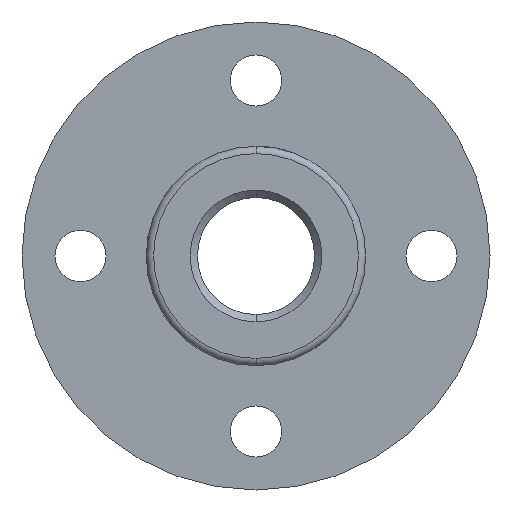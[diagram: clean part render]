
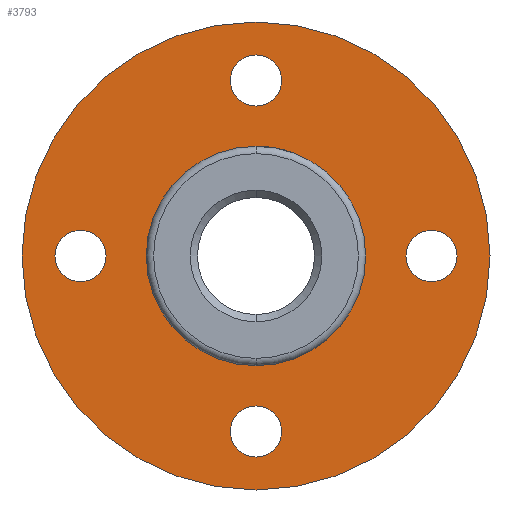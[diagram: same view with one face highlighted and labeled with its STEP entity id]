
A CAD part, front view. The second image highlights one B-rep face of the part: STEP entity #3793.
In plain terms, the highlighted planar face has unit normal (0, -1, 0).
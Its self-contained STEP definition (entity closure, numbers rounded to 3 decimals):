
#20 = EDGE_CURVE ( 'NONE', #1327, #4107, #1454, .T. ) ;
#57 = EDGE_CURVE ( 'NONE', #2911, #6385, #3033, .T. ) ;
#66 = AXIS2_PLACEMENT_3D ( 'NONE', #966, #5449, #1504 ) ;
#118 = CIRCLE ( 'NONE', #910, 1.75 ) ;
#182 = DIRECTION ( 'NONE',  ( 0., 0., 1. ) ) ;
#209 = CIRCLE ( 'NONE', #7169, 1.75 ) ;
#226 = DIRECTION ( 'NONE',  ( 0., 0., 1. ) ) ;
#517 = DIRECTION ( 'NONE',  ( 0., 0., 1. ) ) ;
#610 = ORIENTED_EDGE ( 'NONE', *, *, #6269, .T. ) ;
#662 = FACE_BOUND ( 'NONE', #2964, .T. ) ;
#719 = CARTESIAN_POINT ( 'NONE',  ( 12., 0., -1.75 ) ) ;
#831 = FACE_BOUND ( 'NONE', #5237, .T. ) ;
#887 = VERTEX_POINT ( 'NONE', #6067 ) ;
#910 = AXIS2_PLACEMENT_3D ( 'NONE', #2399, #4033, #2981 ) ;
#929 = CARTESIAN_POINT ( 'NONE',  ( -12., 0., -1.75 ) ) ;
#966 = CARTESIAN_POINT ( 'NONE',  ( 0., 0., -12. ) ) ;
#1009 = DIRECTION ( 'NONE',  ( 0., 1., 0. ) ) ;
#1040 = ORIENTED_EDGE ( 'NONE', *, *, #7217, .T. ) ;
#1255 = ORIENTED_EDGE ( 'NONE', *, *, #4280, .T. ) ;
#1262 = CIRCLE ( 'NONE', #5280, 1.75 ) ;
#1271 = CIRCLE ( 'NONE', #66, 1.75 ) ;
#1299 = VERTEX_POINT ( 'NONE', #3869 ) ;
#1327 = VERTEX_POINT ( 'NONE', #2142 ) ;
#1414 = CARTESIAN_POINT ( 'NONE',  ( 0., 0., 16. ) ) ;
#1417 = AXIS2_PLACEMENT_3D ( 'NONE', #2101, #1009, #6014 ) ;
#1444 = FACE_OUTER_BOUND ( 'NONE', #3843, .T. ) ;
#1454 = CIRCLE ( 'NONE', #3533, 16. ) ;
#1492 = ORIENTED_EDGE ( 'NONE', *, *, #4181, .T. ) ;
#1504 = DIRECTION ( 'NONE',  ( 0., 0., 1. ) ) ;
#1678 = EDGE_CURVE ( 'NONE', #6385, #2911, #3385, .T. ) ;
#1700 = EDGE_LOOP ( 'NONE', ( #5597, #3079 ) ) ;
#1917 = CARTESIAN_POINT ( 'NONE',  ( 0., 0., 12. ) ) ;
#2017 = DIRECTION ( 'NONE',  ( 0., 1., 0. ) ) ;
#2085 = VERTEX_POINT ( 'NONE', #5865 ) ;
#2101 = CARTESIAN_POINT ( 'NONE',  ( -12., 0., 0. ) ) ;
#2117 = DIRECTION ( 'NONE',  ( 0., 1., 0. ) ) ;
#2142 = CARTESIAN_POINT ( 'NONE',  ( 0., 0., -16. ) ) ;
#2266 = EDGE_LOOP ( 'NONE', ( #610, #4710 ) ) ;
#2302 = ORIENTED_EDGE ( 'NONE', *, *, #2344, .T. ) ;
#2344 = EDGE_CURVE ( 'NONE', #4171, #6176, #209, .T. ) ;
#2379 = ORIENTED_EDGE ( 'NONE', *, *, #20, .F. ) ;
#2399 = CARTESIAN_POINT ( 'NONE',  ( 12., 0., 0. ) ) ;
#2497 = CIRCLE ( 'NONE', #3585, 1.75 ) ;
#2576 = CIRCLE ( 'NONE', #3446, 1.75 ) ;
#2611 = PLANE ( 'NONE',  #3962 ) ;
#2911 = VERTEX_POINT ( 'NONE', #6424 ) ;
#2938 = FACE_BOUND ( 'NONE', #2266, .T. ) ;
#2964 = EDGE_LOOP ( 'NONE', ( #1492, #1040 ) ) ;
#2981 = DIRECTION ( 'NONE',  ( 0., 0., 1. ) ) ;
#2986 = CARTESIAN_POINT ( 'NONE',  ( 0., 0., 10.25 ) ) ;
#3033 = CIRCLE ( 'NONE', #5562, 7.5 ) ;
#3079 = ORIENTED_EDGE ( 'NONE', *, *, #5931, .T. ) ;
#3097 = CARTESIAN_POINT ( 'NONE',  ( 0., 0., -10.25 ) ) ;
#3174 = CARTESIAN_POINT ( 'NONE',  ( 0., 0., 0. ) ) ;
#3383 = DIRECTION ( 'NONE',  ( 0., 1., 0. ) ) ;
#3385 = CIRCLE ( 'NONE', #5750, 7.5 ) ;
#3446 = AXIS2_PLACEMENT_3D ( 'NONE', #6771, #6812, #5667 ) ;
#3481 = EDGE_CURVE ( 'NONE', #887, #4749, #2497, .T. ) ;
#3533 = AXIS2_PLACEMENT_3D ( 'NONE', #6356, #4674, #226 ) ;
#3547 = DIRECTION ( 'NONE',  ( 0., 1., 0. ) ) ;
#3585 = AXIS2_PLACEMENT_3D ( 'NONE', #3773, #7206, #3832 ) ;
#3773 = CARTESIAN_POINT ( 'NONE',  ( 12., 0., 0. ) ) ;
#3783 = CARTESIAN_POINT ( 'NONE',  ( 0., 0., -7.5 ) ) ;
#3793 = ADVANCED_FACE ( 'NONE', ( #831, #6647, #4441, #2938, #662, #1444 ), #2611, .F. ) ;
#3798 = EDGE_LOOP ( 'NONE', ( #2302, #1255 ) ) ;
#3832 = DIRECTION ( 'NONE',  ( 0., 0., 1. ) ) ;
#3843 = EDGE_LOOP ( 'NONE', ( #2379, #7142 ) ) ;
#3864 = EDGE_CURVE ( 'NONE', #4107, #1327, #5129, .T. ) ;
#3869 = CARTESIAN_POINT ( 'NONE',  ( -12., 0., 1.75 ) ) ;
#3931 = DIRECTION ( 'NONE',  ( 0., 0., 1. ) ) ;
#3962 = AXIS2_PLACEMENT_3D ( 'NONE', #3174, #2117, #7113 ) ;
#3997 = CARTESIAN_POINT ( 'NONE',  ( 0., 0., 0. ) ) ;
#4033 = DIRECTION ( 'NONE',  ( 0., 1., 0. ) ) ;
#4107 = VERTEX_POINT ( 'NONE', #1414 ) ;
#4170 = CARTESIAN_POINT ( 'NONE',  ( 0., 0., 0. ) ) ;
#4171 = VERTEX_POINT ( 'NONE', #3097 ) ;
#4181 = EDGE_CURVE ( 'NONE', #1299, #7271, #6119, .T. ) ;
#4280 = EDGE_CURVE ( 'NONE', #6176, #4171, #1271, .T. ) ;
#4441 = FACE_BOUND ( 'NONE', #1700, .T. ) ;
#4662 = EDGE_CURVE ( 'NONE', #5518, #2085, #2576, .T. ) ;
#4674 = DIRECTION ( 'NONE',  ( 0., 1., 0. ) ) ;
#4710 = ORIENTED_EDGE ( 'NONE', *, *, #4662, .T. ) ;
#4749 = VERTEX_POINT ( 'NONE', #719 ) ;
#5122 = DIRECTION ( 'NONE',  ( 0., 1., 0. ) ) ;
#5129 = CIRCLE ( 'NONE', #5987, 16. ) ;
#5237 = EDGE_LOOP ( 'NONE', ( #7051, #5337 ) ) ;
#5280 = AXIS2_PLACEMENT_3D ( 'NONE', #1917, #6401, #182 ) ;
#5337 = ORIENTED_EDGE ( 'NONE', *, *, #1678, .T. ) ;
#5355 = CARTESIAN_POINT ( 'NONE',  ( -12., 0., 0. ) ) ;
#5449 = DIRECTION ( 'NONE',  ( 0., 1., 0. ) ) ;
#5518 = VERTEX_POINT ( 'NONE', #2986 ) ;
#5562 = AXIS2_PLACEMENT_3D ( 'NONE', #4170, #3547, #5805 ) ;
#5597 = ORIENTED_EDGE ( 'NONE', *, *, #3481, .T. ) ;
#5667 = DIRECTION ( 'NONE',  ( 0., 0., 1. ) ) ;
#5750 = AXIS2_PLACEMENT_3D ( 'NONE', #3997, #5122, #3931 ) ;
#5805 = DIRECTION ( 'NONE',  ( 0., 0., 1. ) ) ;
#5865 = CARTESIAN_POINT ( 'NONE',  ( 0., 0., 13.75 ) ) ;
#5931 = EDGE_CURVE ( 'NONE', #4749, #887, #118, .T. ) ;
#5974 = DIRECTION ( 'NONE',  ( 0., 0., 1. ) ) ;
#5987 = AXIS2_PLACEMENT_3D ( 'NONE', #6032, #6660, #7268 ) ;
#6014 = DIRECTION ( 'NONE',  ( 0., 0., 1. ) ) ;
#6032 = CARTESIAN_POINT ( 'NONE',  ( 0., 0., 0. ) ) ;
#6067 = CARTESIAN_POINT ( 'NONE',  ( 12., 0., 1.75 ) ) ;
#6119 = CIRCLE ( 'NONE', #6759, 1.75 ) ;
#6176 = VERTEX_POINT ( 'NONE', #6374 ) ;
#6195 = CIRCLE ( 'NONE', #1417, 1.75 ) ;
#6269 = EDGE_CURVE ( 'NONE', #2085, #5518, #1262, .T. ) ;
#6356 = CARTESIAN_POINT ( 'NONE',  ( 0., 0., 0. ) ) ;
#6374 = CARTESIAN_POINT ( 'NONE',  ( 0., 0., -13.75 ) ) ;
#6385 = VERTEX_POINT ( 'NONE', #3783 ) ;
#6401 = DIRECTION ( 'NONE',  ( 0., 1., 0. ) ) ;
#6424 = CARTESIAN_POINT ( 'NONE',  ( 0., 0., 7.5 ) ) ;
#6647 = FACE_BOUND ( 'NONE', #3798, .T. ) ;
#6660 = DIRECTION ( 'NONE',  ( 0., 1., 0. ) ) ;
#6759 = AXIS2_PLACEMENT_3D ( 'NONE', #5355, #2017, #5974 ) ;
#6771 = CARTESIAN_POINT ( 'NONE',  ( 0., 0., 12. ) ) ;
#6812 = DIRECTION ( 'NONE',  ( 0., 1., 0. ) ) ;
#7051 = ORIENTED_EDGE ( 'NONE', *, *, #57, .T. ) ;
#7113 = DIRECTION ( 'NONE',  ( 0., 0., 1. ) ) ;
#7142 = ORIENTED_EDGE ( 'NONE', *, *, #3864, .F. ) ;
#7169 = AXIS2_PLACEMENT_3D ( 'NONE', #7250, #3383, #517 ) ;
#7206 = DIRECTION ( 'NONE',  ( 0., 1., 0. ) ) ;
#7217 = EDGE_CURVE ( 'NONE', #7271, #1299, #6195, .T. ) ;
#7250 = CARTESIAN_POINT ( 'NONE',  ( 0., 0., -12. ) ) ;
#7268 = DIRECTION ( 'NONE',  ( 0., 0., 1. ) ) ;
#7271 = VERTEX_POINT ( 'NONE', #929 ) ;
